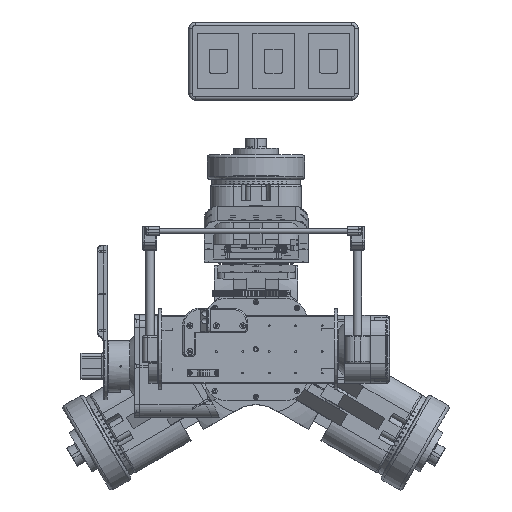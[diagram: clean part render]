
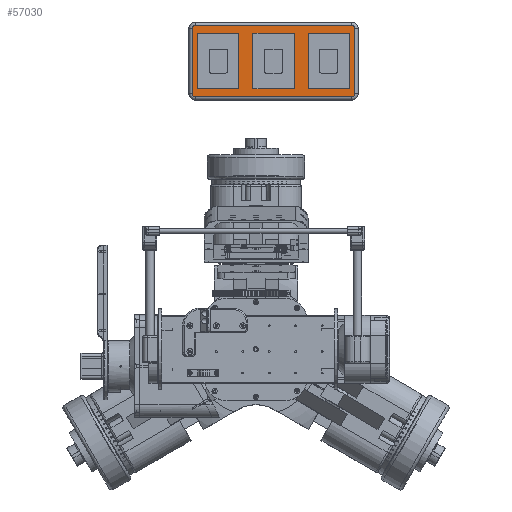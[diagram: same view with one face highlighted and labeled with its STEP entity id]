
A CAD part, top view. The second image highlights one B-rep face of the part: STEP entity #57030.
In plain terms, the highlighted planar face has unit normal (0, 0, 1).
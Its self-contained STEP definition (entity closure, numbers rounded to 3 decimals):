
#3493=FACE_BOUND('',#13810,.T.);
#3494=FACE_BOUND('',#13811,.T.);
#3495=FACE_BOUND('',#13812,.T.);
#6376=CIRCLE('',#63239,5.);
#6382=CIRCLE('',#63246,5.);
#6386=CIRCLE('',#63251,5.);
#6390=CIRCLE('',#63256,5.);
#9626=FACE_OUTER_BOUND('',#13809,.T.);
#13809=EDGE_LOOP('',(#51773,#51774,#51775,#51776,#51777,#51778,#51779,#51780));
#13810=EDGE_LOOP('',(#51781,#51782,#51783,#51784));
#13811=EDGE_LOOP('',(#51785,#51786,#51787,#51788));
#13812=EDGE_LOOP('',(#51789,#51790,#51791,#51792));
#18369=LINE('',#205021,#22672);
#18371=LINE('',#205041,#22674);
#18373=LINE('',#205061,#22676);
#18374=LINE('',#205077,#22677);
#18381=LINE('',#205091,#22684);
#18382=LINE('',#205093,#22685);
#18383=LINE('',#205095,#22686);
#18384=LINE('',#205096,#22687);
#18385=LINE('',#205099,#22688);
#18386=LINE('',#205101,#22689);
#18387=LINE('',#205103,#22690);
#18388=LINE('',#205104,#22691);
#18389=LINE('',#205107,#22692);
#18390=LINE('',#205109,#22693);
#18391=LINE('',#205111,#22694);
#18392=LINE('',#205112,#22695);
#22672=VECTOR('',#79423,10.);
#22674=VECTOR('',#79435,10.);
#22676=VECTOR('',#79447,10.);
#22677=VECTOR('',#79456,10.);
#22684=VECTOR('',#79473,10.);
#22685=VECTOR('',#79474,10.);
#22686=VECTOR('',#79475,10.);
#22687=VECTOR('',#79476,10.);
#22688=VECTOR('',#79477,10.);
#22689=VECTOR('',#79478,10.);
#22690=VECTOR('',#79479,10.);
#22691=VECTOR('',#79480,10.);
#22692=VECTOR('',#79481,10.);
#22693=VECTOR('',#79482,10.);
#22694=VECTOR('',#79483,10.);
#22695=VECTOR('',#79484,10.);
#27953=VERTEX_POINT('',#205009);
#27954=VERTEX_POINT('',#205011);
#27956=VERTEX_POINT('',#205017);
#27958=VERTEX_POINT('',#205031);
#27960=VERTEX_POINT('',#205037);
#27962=VERTEX_POINT('',#205051);
#27964=VERTEX_POINT('',#205057);
#27966=VERTEX_POINT('',#205071);
#27968=VERTEX_POINT('',#205089);
#27969=VERTEX_POINT('',#205090);
#27970=VERTEX_POINT('',#205092);
#27971=VERTEX_POINT('',#205094);
#27972=VERTEX_POINT('',#205097);
#27973=VERTEX_POINT('',#205098);
#27974=VERTEX_POINT('',#205100);
#27975=VERTEX_POINT('',#205102);
#27976=VERTEX_POINT('',#205105);
#27977=VERTEX_POINT('',#205106);
#27978=VERTEX_POINT('',#205108);
#27979=VERTEX_POINT('',#205110);
#35915=EDGE_CURVE('',#27953,#27954,#6376,.T.);
#35920=EDGE_CURVE('',#27954,#27956,#18369,.T.);
#35923=EDGE_CURVE('',#27956,#27958,#6382,.T.);
#35926=EDGE_CURVE('',#27958,#27960,#18371,.T.);
#35929=EDGE_CURVE('',#27960,#27962,#6386,.T.);
#35932=EDGE_CURVE('',#27962,#27964,#18373,.T.);
#35935=EDGE_CURVE('',#27964,#27966,#6390,.T.);
#35936=EDGE_CURVE('',#27966,#27953,#18374,.T.);
#35943=EDGE_CURVE('',#27968,#27969,#18381,.T.);
#35944=EDGE_CURVE('',#27969,#27970,#18382,.T.);
#35945=EDGE_CURVE('',#27970,#27971,#18383,.T.);
#35946=EDGE_CURVE('',#27971,#27968,#18384,.T.);
#35947=EDGE_CURVE('',#27972,#27973,#18385,.T.);
#35948=EDGE_CURVE('',#27973,#27974,#18386,.T.);
#35949=EDGE_CURVE('',#27974,#27975,#18387,.T.);
#35950=EDGE_CURVE('',#27975,#27972,#18388,.T.);
#35951=EDGE_CURVE('',#27976,#27977,#18389,.T.);
#35952=EDGE_CURVE('',#27977,#27978,#18390,.T.);
#35953=EDGE_CURVE('',#27978,#27979,#18391,.T.);
#35954=EDGE_CURVE('',#27979,#27976,#18392,.T.);
#51773=ORIENTED_EDGE('',*,*,#35915,.F.);
#51774=ORIENTED_EDGE('',*,*,#35936,.F.);
#51775=ORIENTED_EDGE('',*,*,#35935,.F.);
#51776=ORIENTED_EDGE('',*,*,#35932,.F.);
#51777=ORIENTED_EDGE('',*,*,#35929,.F.);
#51778=ORIENTED_EDGE('',*,*,#35926,.F.);
#51779=ORIENTED_EDGE('',*,*,#35923,.F.);
#51780=ORIENTED_EDGE('',*,*,#35920,.F.);
#51781=ORIENTED_EDGE('',*,*,#35943,.T.);
#51782=ORIENTED_EDGE('',*,*,#35944,.T.);
#51783=ORIENTED_EDGE('',*,*,#35945,.T.);
#51784=ORIENTED_EDGE('',*,*,#35946,.T.);
#51785=ORIENTED_EDGE('',*,*,#35947,.T.);
#51786=ORIENTED_EDGE('',*,*,#35948,.T.);
#51787=ORIENTED_EDGE('',*,*,#35949,.T.);
#51788=ORIENTED_EDGE('',*,*,#35950,.T.);
#51789=ORIENTED_EDGE('',*,*,#35951,.T.);
#51790=ORIENTED_EDGE('',*,*,#35952,.T.);
#51791=ORIENTED_EDGE('',*,*,#35953,.T.);
#51792=ORIENTED_EDGE('',*,*,#35954,.T.);
#53883=PLANE('',#63262);
#57030=ADVANCED_FACE('',(#9626,#3493,#3494,#3495),#53883,.T.);
#63239=AXIS2_PLACEMENT_3D('',#205012,#79412,#79413);
#63246=AXIS2_PLACEMENT_3D('',#205035,#79428,#79429);
#63251=AXIS2_PLACEMENT_3D('',#205055,#79440,#79441);
#63256=AXIS2_PLACEMENT_3D('',#205075,#79452,#79453);
#63262=AXIS2_PLACEMENT_3D('',#205088,#79471,#79472);
#79412=DIRECTION('center_axis',(0.,0.,-1.));
#79413=DIRECTION('ref_axis',(0.707,0.707,0.));
#79423=DIRECTION('',(0.,-1.,0.));
#79428=DIRECTION('center_axis',(0.,0.,-1.));
#79429=DIRECTION('ref_axis',(0.707,-0.707,0.));
#79435=DIRECTION('',(-1.,0.,0.));
#79440=DIRECTION('center_axis',(0.,0.,-1.));
#79441=DIRECTION('ref_axis',(-0.707,-0.707,0.));
#79447=DIRECTION('',(0.,1.,0.));
#79452=DIRECTION('center_axis',(0.,0.,-1.));
#79453=DIRECTION('ref_axis',(-0.707,0.707,0.));
#79456=DIRECTION('',(1.,0.,0.));
#79471=DIRECTION('center_axis',(0.,0.,1.));
#79472=DIRECTION('ref_axis',(1.,0.,0.));
#79473=DIRECTION('',(-1.,0.,0.));
#79474=DIRECTION('',(0.,1.,0.));
#79475=DIRECTION('',(1.,0.,0.));
#79476=DIRECTION('',(0.,-1.,0.));
#79477=DIRECTION('',(-1.,0.,0.));
#79478=DIRECTION('',(0.,1.,0.));
#79479=DIRECTION('',(1.,0.,0.));
#79480=DIRECTION('',(0.,-1.,0.));
#79481=DIRECTION('',(-1.,0.,0.));
#79482=DIRECTION('',(0.,1.,0.));
#79483=DIRECTION('',(1.,0.,0.));
#79484=DIRECTION('',(0.,-1.,0.));
#205009=CARTESIAN_POINT('',(340.,265.,-80.));
#205011=CARTESIAN_POINT('',(345.,260.,-80.));
#205012=CARTESIAN_POINT('Origin',(340.,260.,-80.));
#205017=CARTESIAN_POINT('',(345.,160.,-80.));
#205021=CARTESIAN_POINT('',(345.,180.,-80.));
#205031=CARTESIAN_POINT('',(340.,155.,-80.));
#205035=CARTESIAN_POINT('Origin',(340.,160.,-80.));
#205037=CARTESIAN_POINT('',(100.,155.,-80.));
#205041=CARTESIAN_POINT('',(155.,155.,-80.));
#205051=CARTESIAN_POINT('',(95.,160.,-80.));
#205055=CARTESIAN_POINT('Origin',(100.,160.,-80.));
#205057=CARTESIAN_POINT('',(95.,260.,-80.));
#205061=CARTESIAN_POINT('',(95.,240.,-80.));
#205071=CARTESIAN_POINT('',(100.,265.,-80.));
#205075=CARTESIAN_POINT('Origin',(100.,260.,-80.));
#205077=CARTESIAN_POINT('',(285.,265.,-80.));
#205088=CARTESIAN_POINT('Origin',(220.,210.,-80.));
#205089=CARTESIAN_POINT('',(251.5,167.5,-80.));
#205090=CARTESIAN_POINT('',(188.5,167.5,-80.));
#205091=CARTESIAN_POINT('',(235.75,167.5,-80.));
#205092=CARTESIAN_POINT('',(188.5,252.5,-80.));
#205093=CARTESIAN_POINT('',(188.5,188.75,-80.));
#205094=CARTESIAN_POINT('',(251.5,252.5,-80.));
#205095=CARTESIAN_POINT('',(204.25,252.5,-80.));
#205096=CARTESIAN_POINT('',(251.5,231.25,-80.));
#205097=CARTESIAN_POINT('',(336.5,167.5,-80.));
#205098=CARTESIAN_POINT('',(273.5,167.5,-80.));
#205099=CARTESIAN_POINT('',(320.75,167.5,-80.));
#205100=CARTESIAN_POINT('',(273.5,252.5,-80.));
#205101=CARTESIAN_POINT('',(273.5,188.75,-80.));
#205102=CARTESIAN_POINT('',(336.5,252.5,-80.));
#205103=CARTESIAN_POINT('',(289.25,252.5,-80.));
#205104=CARTESIAN_POINT('',(336.5,231.25,-80.));
#205105=CARTESIAN_POINT('',(166.5,167.5,-80.));
#205106=CARTESIAN_POINT('',(103.5,167.5,-80.));
#205107=CARTESIAN_POINT('',(150.75,167.5,-80.));
#205108=CARTESIAN_POINT('',(103.5,252.5,-80.));
#205109=CARTESIAN_POINT('',(103.5,188.75,-80.));
#205110=CARTESIAN_POINT('',(166.5,252.5,-80.));
#205111=CARTESIAN_POINT('',(119.25,252.5,-80.));
#205112=CARTESIAN_POINT('',(166.5,231.25,-80.));
